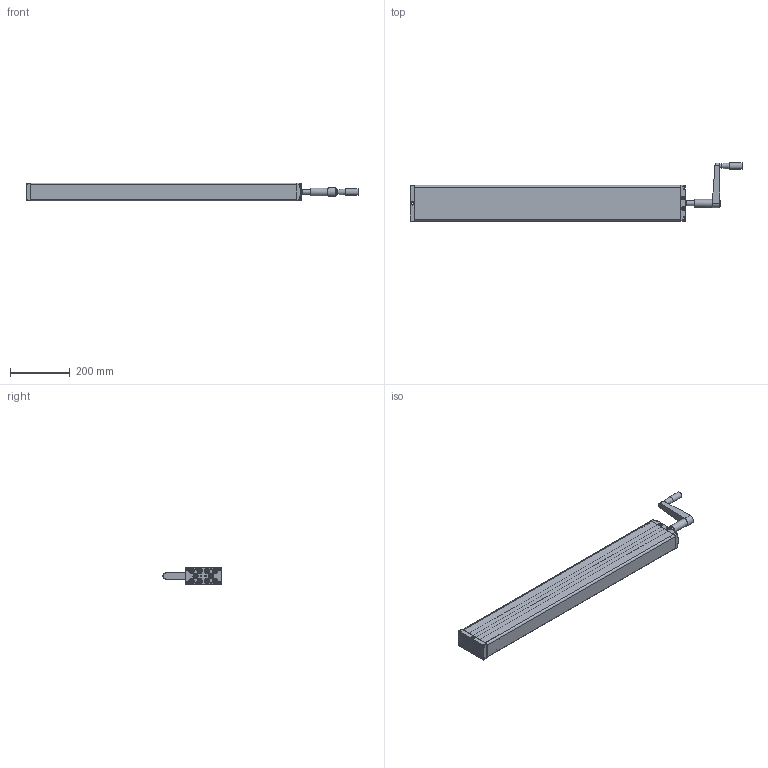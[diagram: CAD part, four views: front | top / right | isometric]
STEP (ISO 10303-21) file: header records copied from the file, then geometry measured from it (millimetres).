
FILE_DESCRIPTION(/* description */ ('Unknown'),/* implementation_level */ '2;1');
FILE_NAME(/* name */ '312.20188 Pumpe PB 0440 W mit Handkurbel',/* time_stamp */ '2016-11-03T16:57:29+01:00',/* author */ ('Unknown'),/* organization */ ('Unknown'),/* preprocessor_version */ 'ST-DEVELOPER v16.7',/* originating_system */ 'DEX',/* authorisation */ $);
FILE_SCHEMA (('AUTOMOTIVE_DESIGN {1 0 10303 214 3 1 1}'));
Products named in the file (22): 102.00188; 115.10027; 125.00031; 115.00007; 142.00021; 125.00021; 113.00005; 128.00001; 125.00052; 126.00013; 125.00053; 127.00014; Handgriff; 142.00013; 125.00147; 115.00140; 126.00006; 122.00040; 119.00047; 126.00036; 142.00057; 142.00017
Assembly tree (38 placements, depth 3):
  102.00188
    115.10027  x10
      125.00031
      115.00007
      142.00021
      125.00021
    113.00005
      128.00001
      125.00052
      126.00013
      125.00053
      127.00014
      Handgriff
    142.00013  x8
    125.00147
    115.00140
      126.00006
      122.00040
    119.00047
    126.00036
    142.00057
    142.00017  x2
Bounding box: 1113.75 x 195.5 x 60.3 mm (x, y, z)
Volume: 1239187.3 mm3; surface area: 819871.8 mm2
Topology: 52 solids, 52 shells, 2283 faces, 5202 edges, 3063 vertices
Faces by surface type: plane 823, cylinder 528, cone 386, bspline 380, torus 106, sphere 60
Full cylindrical faces by diameter (mm): 3.5 x10, 4 x2, 4.1 x10, 4.134 x4, 4.2 x11, 4.917 x4, 5 x8, 5.8 x4, 6 x2, 6.8 x1, 6.917 x20, 8 x22, 9 x10, 9.8 x8, 10 x6, 10.4 x1, 10.5 x4, 12.5 x10, 12.8 x1, 13 x31, 13.9 x20, 14 x1, 16 x2, 17 x1, 18 x11, 19 x1, 20.6 x1, 21 x1, 22 x1, 25.5 x1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
Entity records: 63579 total; most frequent: CARTESIAN_POINT 30446, ORIENTED_EDGE 5318, DIRECTION 4753, EDGE_CURVE 2659, AXIS2_PLACEMENT_3D 1852, VERTEX_POINT 1690, FACE_BOUND 1519, EDGE_LOOP 1516
